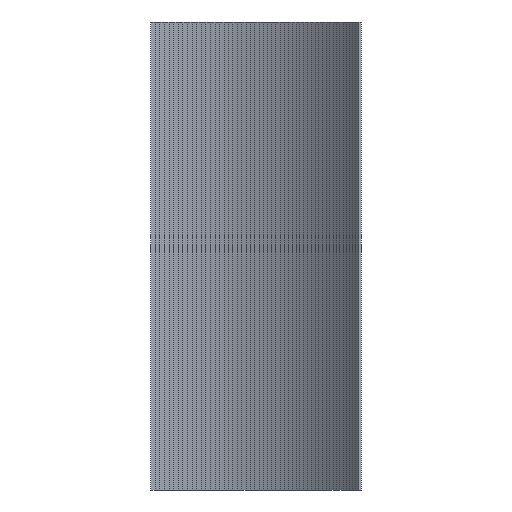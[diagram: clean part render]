
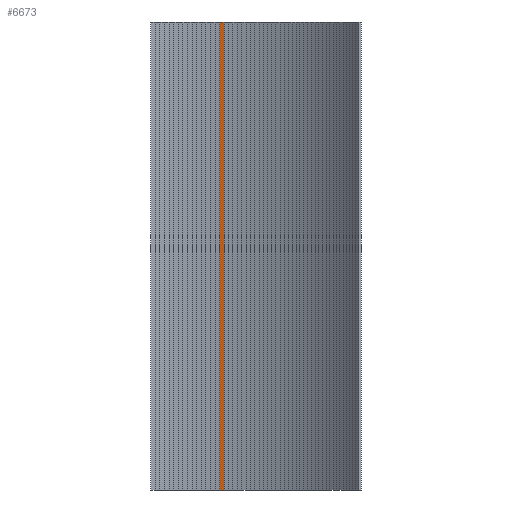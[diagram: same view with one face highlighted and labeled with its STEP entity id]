
A CAD part, front view. The second image highlights one B-rep face of the part: STEP entity #6673.
In plain terms, the highlighted planar face has unit normal (-0.254, -0.967, 0).
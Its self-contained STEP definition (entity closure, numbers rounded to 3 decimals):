
#72 = PLANE('',#73);
#73 = AXIS2_PLACEMENT_3D('',#74,#75,#76);
#74 = CARTESIAN_POINT('',(-239.118,-173.258,23.5));
#75 = DIRECTION('',(-0.,-0.,-1.));
#76 = DIRECTION('',(-1.,0.,0.));
#126 = PLANE('',#127);
#127 = AXIS2_PLACEMENT_3D('',#128,#129,#130);
#128 = CARTESIAN_POINT('',(-239.118,-173.258,2.5));
#129 = DIRECTION('',(-0.,-0.,-1.));
#130 = DIRECTION('',(-1.,0.,0.));
#6565 = PLANE('',#6566);
#6566 = AXIS2_PLACEMENT_3D('',#6567,#6568,#6569);
#6567 = CARTESIAN_POINT('',(-240.642,-172.346,2.5));
#6568 = DIRECTION('',(-0.27,-0.963,0.));
#6569 = DIRECTION('',(-0.963,0.27,0.));
#6603 = VERTEX_POINT('',#6604);
#6604 = CARTESIAN_POINT('',(-240.842,-172.29,23.5));
#6625 = EDGE_CURVE('',#6626,#6603,#6628,.T.);
#6626 = VERTEX_POINT('',#6627);
#6627 = CARTESIAN_POINT('',(-240.842,-172.29,2.5));
#6628 = SURFACE_CURVE('',#6629,(#6633,#6640),.PCURVE_S1.);
#6629 = LINE('',#6630,#6631);
#6630 = CARTESIAN_POINT('',(-240.842,-172.29,2.5));
#6631 = VECTOR('',#6632,1.);
#6632 = DIRECTION('',(0.,0.,1.));
#6633 = PCURVE('',#6565,#6634);
#6634 = DEFINITIONAL_REPRESENTATION('',(#6635),#6639);
#6635 = LINE('',#6636,#6637);
#6636 = CARTESIAN_POINT('',(0.208,0.));
#6637 = VECTOR('',#6638,1.);
#6638 = DIRECTION('',(0.,-1.));
#6639 = ( GEOMETRIC_REPRESENTATION_CONTEXT(2) 
PARAMETRIC_REPRESENTATION_CONTEXT() REPRESENTATION_CONTEXT('2D SPACE',''
  ) );
#6640 = PCURVE('',#6641,#6646);
#6641 = PLANE('',#6642);
#6642 = AXIS2_PLACEMENT_3D('',#6643,#6644,#6645);
#6643 = CARTESIAN_POINT('',(-240.842,-172.29,2.5));
#6644 = DIRECTION('',(-0.254,-0.967,0.));
#6645 = DIRECTION('',(-0.967,0.254,0.));
#6646 = DEFINITIONAL_REPRESENTATION('',(#6647),#6651);
#6647 = LINE('',#6648,#6649);
#6648 = CARTESIAN_POINT('',(0.,0.));
#6649 = VECTOR('',#6650,1.);
#6650 = DIRECTION('',(0.,-1.));
#6651 = ( GEOMETRIC_REPRESENTATION_CONTEXT(2) 
PARAMETRIC_REPRESENTATION_CONTEXT() REPRESENTATION_CONTEXT('2D SPACE',''
  ) );
#6673 = ADVANCED_FACE('',(#6674),#6641,.T.);
#6674 = FACE_BOUND('',#6675,.T.);
#6675 = EDGE_LOOP('',(#6676,#6677,#6700,#6728));
#6676 = ORIENTED_EDGE('',*,*,#6625,.T.);
#6677 = ORIENTED_EDGE('',*,*,#6678,.T.);
#6678 = EDGE_CURVE('',#6603,#6679,#6681,.T.);
#6679 = VERTEX_POINT('',#6680);
#6680 = CARTESIAN_POINT('',(-241.044,-172.237,23.5));
#6681 = SURFACE_CURVE('',#6682,(#6686,#6693),.PCURVE_S1.);
#6682 = LINE('',#6683,#6684);
#6683 = CARTESIAN_POINT('',(-240.842,-172.29,23.5));
#6684 = VECTOR('',#6685,1.);
#6685 = DIRECTION('',(-0.967,0.254,0.));
#6686 = PCURVE('',#6641,#6687);
#6687 = DEFINITIONAL_REPRESENTATION('',(#6688),#6692);
#6688 = LINE('',#6689,#6690);
#6689 = CARTESIAN_POINT('',(0.,-21.));
#6690 = VECTOR('',#6691,1.);
#6691 = DIRECTION('',(1.,0.));
#6692 = ( GEOMETRIC_REPRESENTATION_CONTEXT(2) 
PARAMETRIC_REPRESENTATION_CONTEXT() REPRESENTATION_CONTEXT('2D SPACE',''
  ) );
#6693 = PCURVE('',#72,#6694);
#6694 = DEFINITIONAL_REPRESENTATION('',(#6695),#6699);
#6695 = LINE('',#6696,#6697);
#6696 = CARTESIAN_POINT('',(1.724,0.969));
#6697 = VECTOR('',#6698,1.);
#6698 = DIRECTION('',(0.967,0.254));
#6699 = ( GEOMETRIC_REPRESENTATION_CONTEXT(2) 
PARAMETRIC_REPRESENTATION_CONTEXT() REPRESENTATION_CONTEXT('2D SPACE',''
  ) );
#6700 = ORIENTED_EDGE('',*,*,#6701,.F.);
#6701 = EDGE_CURVE('',#6702,#6679,#6704,.T.);
#6702 = VERTEX_POINT('',#6703);
#6703 = CARTESIAN_POINT('',(-241.044,-172.237,2.5));
#6704 = SURFACE_CURVE('',#6705,(#6709,#6716),.PCURVE_S1.);
#6705 = LINE('',#6706,#6707);
#6706 = CARTESIAN_POINT('',(-241.044,-172.237,2.5));
#6707 = VECTOR('',#6708,1.);
#6708 = DIRECTION('',(0.,0.,1.));
#6709 = PCURVE('',#6641,#6710);
#6710 = DEFINITIONAL_REPRESENTATION('',(#6711),#6715);
#6711 = LINE('',#6712,#6713);
#6712 = CARTESIAN_POINT('',(0.208,0.));
#6713 = VECTOR('',#6714,1.);
#6714 = DIRECTION('',(0.,-1.));
#6715 = ( GEOMETRIC_REPRESENTATION_CONTEXT(2) 
PARAMETRIC_REPRESENTATION_CONTEXT() REPRESENTATION_CONTEXT('2D SPACE',''
  ) );
#6716 = PCURVE('',#6717,#6722);
#6717 = PLANE('',#6718);
#6718 = AXIS2_PLACEMENT_3D('',#6719,#6720,#6721);
#6719 = CARTESIAN_POINT('',(-241.044,-172.237,2.5));
#6720 = DIRECTION('',(-0.237,-0.972,0.));
#6721 = DIRECTION('',(-0.972,0.237,0.));
#6722 = DEFINITIONAL_REPRESENTATION('',(#6723),#6727);
#6723 = LINE('',#6724,#6725);
#6724 = CARTESIAN_POINT('',(0.,0.));
#6725 = VECTOR('',#6726,1.);
#6726 = DIRECTION('',(0.,-1.));
#6727 = ( GEOMETRIC_REPRESENTATION_CONTEXT(2) 
PARAMETRIC_REPRESENTATION_CONTEXT() REPRESENTATION_CONTEXT('2D SPACE',''
  ) );
#6728 = ORIENTED_EDGE('',*,*,#6729,.F.);
#6729 = EDGE_CURVE('',#6626,#6702,#6730,.T.);
#6730 = SURFACE_CURVE('',#6731,(#6735,#6742),.PCURVE_S1.);
#6731 = LINE('',#6732,#6733);
#6732 = CARTESIAN_POINT('',(-240.842,-172.29,2.5));
#6733 = VECTOR('',#6734,1.);
#6734 = DIRECTION('',(-0.967,0.254,0.));
#6735 = PCURVE('',#6641,#6736);
#6736 = DEFINITIONAL_REPRESENTATION('',(#6737),#6741);
#6737 = LINE('',#6738,#6739);
#6738 = CARTESIAN_POINT('',(0.,0.));
#6739 = VECTOR('',#6740,1.);
#6740 = DIRECTION('',(1.,0.));
#6741 = ( GEOMETRIC_REPRESENTATION_CONTEXT(2) 
PARAMETRIC_REPRESENTATION_CONTEXT() REPRESENTATION_CONTEXT('2D SPACE',''
  ) );
#6742 = PCURVE('',#126,#6743);
#6743 = DEFINITIONAL_REPRESENTATION('',(#6744),#6748);
#6744 = LINE('',#6745,#6746);
#6745 = CARTESIAN_POINT('',(1.724,0.969));
#6746 = VECTOR('',#6747,1.);
#6747 = DIRECTION('',(0.967,0.254));
#6748 = ( GEOMETRIC_REPRESENTATION_CONTEXT(2) 
PARAMETRIC_REPRESENTATION_CONTEXT() REPRESENTATION_CONTEXT('2D SPACE',''
  ) );
